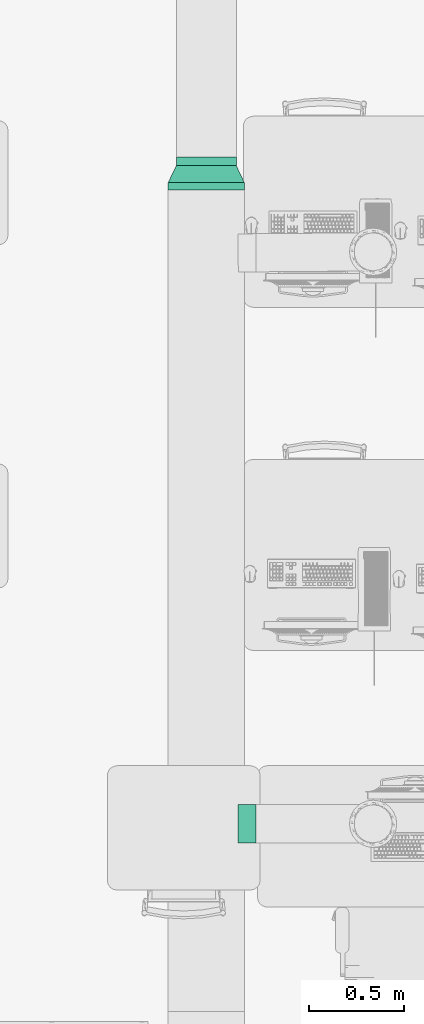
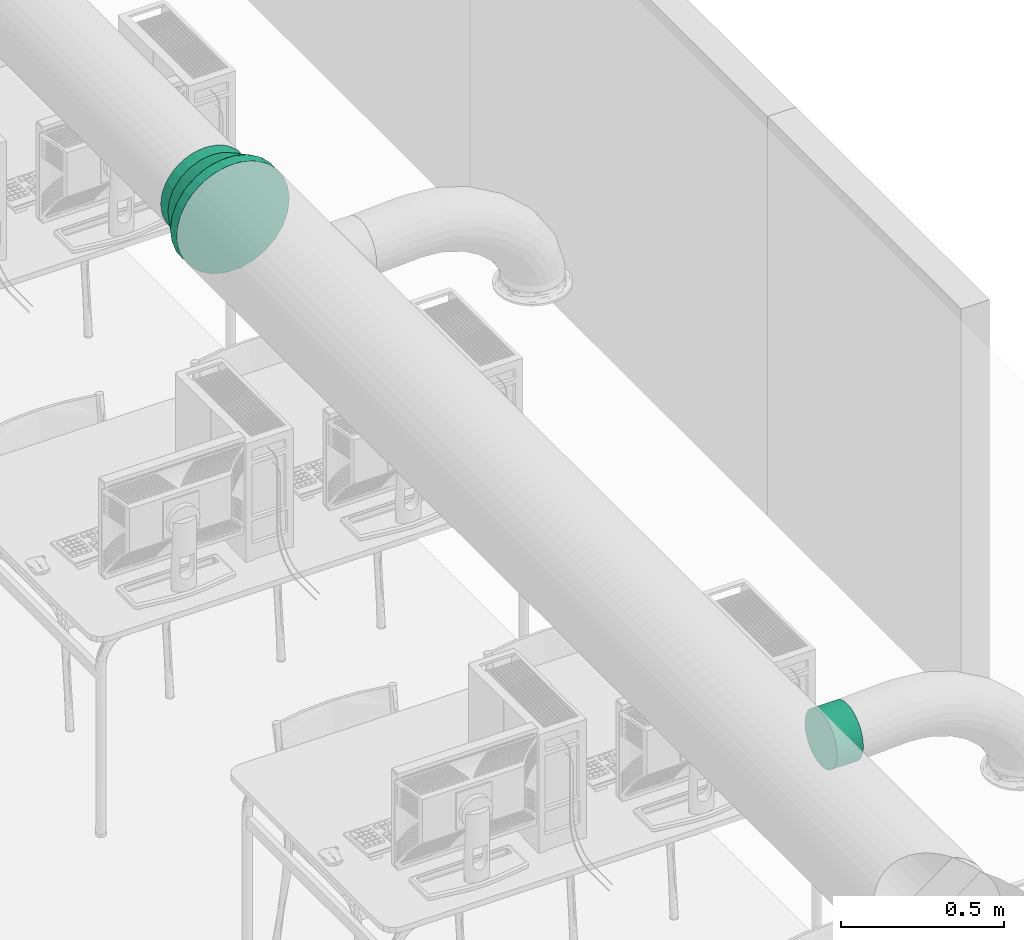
# One storey, part 13 of 31: 2 flow fittings.
"""IFC2X3 building model written with IfcOpenShell, lengths in millimetres."""

from ifc_helpers import new_model, entity, si_unit, converted_unit, derived_unit, direction, frame, frame_2d, origin, place, context, subcontext, project, spatial, circle, extrude, faceted_brep, source, transform, mapped, material, material_list, type_object, type_shapes, element, save


model = new_model("IFC2X3")

# Units and contexts
model_context = context("Model", 3, precision=0.01, world=origin(), true_north=direction((6.123031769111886e-17, 1.0)))
body_context = subcontext(model_context, "Body", "Model", "MODEL_VIEW")
ifc_project = project(units=[si_unit("LENGTHUNIT", "METRE", prefix="MILLI"), si_unit("AREAUNIT", "SQUARE_METRE"), si_unit("VOLUMEUNIT", "CUBIC_METRE"), converted_unit("PLANEANGLEUNIT", "DEGREE", entity("IfcRatioMeasure", 0.017453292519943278), si_unit("PLANEANGLEUNIT", "RADIAN"), dimensions=[0, 0, 0, 0, 0, 0, 0]), si_unit("MASSUNIT", "GRAM", prefix="KILO"), derived_unit("MASSDENSITYUNIT", [(si_unit("MASSUNIT", "GRAM", prefix="KILO"), 1), (si_unit("LENGTHUNIT", "METRE"), -3)]), derived_unit("MOMENTOFINERTIAUNIT", [(si_unit("LENGTHUNIT", "METRE"), 4)]), si_unit("TIMEUNIT", "SECOND"), si_unit("FREQUENCYUNIT", "HERTZ"), si_unit("THERMODYNAMICTEMPERATUREUNIT", "DEGREE_CELSIUS"), derived_unit("THERMALTRANSMITTANCEUNIT", [(si_unit("MASSUNIT", "GRAM", prefix="KILO"), 1), (si_unit("THERMODYNAMICTEMPERATUREUNIT", "KELVIN"), -1), (si_unit("TIMEUNIT", "SECOND"), -3)]), derived_unit("VOLUMETRICFLOWRATEUNIT", [(si_unit("LENGTHUNIT", "METRE"), 3), (si_unit("TIMEUNIT", "SECOND"), -1)]), derived_unit("MASSFLOWRATEUNIT", [(si_unit("MASSUNIT", "GRAM", prefix="KILO"), 1), (si_unit("TIMEUNIT", "SECOND"), -1)]), derived_unit("ROTATIONALFREQUENCYUNIT", [(si_unit("TIMEUNIT", "SECOND"), -1)]), si_unit("ELECTRICCURRENTUNIT", "AMPERE"), si_unit("ELECTRICVOLTAGEUNIT", "VOLT"), si_unit("POWERUNIT", "WATT"), si_unit("FORCEUNIT", "NEWTON", prefix="KILO"), si_unit("ILLUMINANCEUNIT", "LUX"), si_unit("LUMINOUSFLUXUNIT", "LUMEN"), si_unit("LUMINOUSINTENSITYUNIT", "CANDELA"), derived_unit("USERDEFINED", [(si_unit("MASSUNIT", "GRAM", prefix="KILO"), -1), (si_unit("LENGTHUNIT", "METRE"), -2), (si_unit("TIMEUNIT", "SECOND"), 3), (si_unit("LUMINOUSFLUXUNIT", "LUMEN"), 1)]), derived_unit("SOUNDPOWERUNIT", [(si_unit("MASSUNIT", "GRAM", prefix="KILO"), 1), (si_unit("LENGTHUNIT", "METRE"), 2), (si_unit("TIMEUNIT", "SECOND"), -3)]), derived_unit("SOUNDPRESSUREUNIT", [(si_unit("MASSUNIT", "GRAM", prefix="KILO"), 1), (si_unit("LENGTHUNIT", "METRE"), -1), (si_unit("TIMEUNIT", "SECOND"), -2)]), derived_unit("LINEARVELOCITYUNIT", [(si_unit("LENGTHUNIT", "METRE"), 1), (si_unit("TIMEUNIT", "SECOND"), -1)]), si_unit("PRESSUREUNIT", "PASCAL"), derived_unit("USERDEFINED", [(si_unit("LENGTHUNIT", "METRE"), -2), (si_unit("MASSUNIT", "GRAM", prefix="KILO"), 1), (si_unit("TIMEUNIT", "SECOND"), -2)]), derived_unit("LINEARFORCEUNIT", [(si_unit("MASSUNIT", "GRAM", prefix="KILO"), 1), (si_unit("LENGTHUNIT", "METRE"), 1), (si_unit("TIMEUNIT", "SECOND"), -2), (si_unit("LENGTHUNIT", "METRE"), -1)]), derived_unit("PLANARFORCEUNIT", [(si_unit("MASSUNIT", "GRAM", prefix="KILO"), 1), (si_unit("LENGTHUNIT", "METRE"), 1), (si_unit("TIMEUNIT", "SECOND"), -2), (si_unit("LENGTHUNIT", "METRE"), -2)])], contexts=[model_context])

# Site, building, storey
site_placement = place(None, origin())
site = spatial("IfcSite", under=ifc_project, at=site_placement, Name="Default", CompositionType="ELEMENT")
building_placement = place(site_placement, origin())
building = spatial("IfcBuilding", under=site, at=building_placement, CompositionType="ELEMENT")
storey_placement = place(building_placement, frame((0.0, 0.0, 3880.0)))
storey = spatial("IfcBuildingStorey", under=building, at=storey_placement, Name="Niveau 1", CompositionType="ELEMENT", Elevation=3880.0)

# Flow fittings
ifc_material = material(Name="<Unnamed>")
ifc_material_list_1 = material_list([ifc_material, ifc_material, ifc_material])
duct_fitting_type_1 = type_object("IfcDuctFittingType", Name="Circul - Std - Reduction conique - ALDES - STANDARD - (Ba) (1):Standard", PredefinedType="NOTDEFINED", material=ifc_material_list_1)
shared_shape_1 = source(origin(), body_context, "Body", "Brep", [
    faceted_brep([(89.0, 0.0, 157.49999999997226), (89.0, 40.76399960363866, 152.13331764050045), (89.0, 78.74999999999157, 136.39900109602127), (89.0, 111.36931803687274, 111.3693180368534), (89.0, 136.39900109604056, 78.74999999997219), (89.0, 152.1333176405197, 40.76399960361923), (89.0, 157.49999999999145, 0.0), (89.0, 152.13331764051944, -40.76399960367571), (89.0, 136.39900109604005, -78.75000000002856), (89.0, 111.36931803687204, -111.36931803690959), (89.0, 78.74999999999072, -136.39900109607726), (89.0, 40.763999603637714, -152.1333176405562), (89.0, 0.0, -157.50000000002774), (89.0, -40.76399960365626, -152.13331764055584), (89.0, -78.7500000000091, -136.39900109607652), (89.0, -111.36931803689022, -111.36931803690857), (89.0, -136.39900109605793, -78.75000000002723), (89.0, -152.13331764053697, -40.763999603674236), (89.0, -157.50000000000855, 0.0), (89.0, -152.1333176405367, 40.76399960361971), (89.0, -136.39900109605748, 78.7499999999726), (89.0, -111.36931803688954, 111.36931803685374), (89.0, -78.75000000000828, 136.39900109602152), (89.0, -40.76399960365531, 152.13331764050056), (134.0, 0.0, -157.50000000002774), (134.0, 40.76399960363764, -152.1333176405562), (134.0, 78.74999999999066, -136.39900109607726), (134.0, 111.36931803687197, -111.36931803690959), (134.0, 136.39900109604, -78.75000000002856), (134.0, 152.13331764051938, -40.76399960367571), (134.0, 157.49999999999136, 0.0), (134.0, 152.13331764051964, 40.76399960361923), (134.0, 136.3990010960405, 78.74999999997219), (134.0, 111.36931803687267, 111.3693180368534), (134.0, 78.7499999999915, 136.39900109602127), (134.0, 40.763999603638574, 152.13331764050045), (134.0, 0.0, 157.49999999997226), (134.0, -40.763999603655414, 152.13331764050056), (134.0, -78.75000000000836, 136.39900109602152), (134.0, -111.36931803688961, 111.36931803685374), (134.0, -136.39900109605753, 78.7499999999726), (134.0, -152.13331764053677, 40.76399960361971), (134.0, -157.5000000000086, 0.0), (134.0, -152.13331764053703, -40.763999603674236), (134.0, -136.39900109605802, -78.75000000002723), (134.0, -111.36931803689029, -111.36931803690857), (134.0, -78.75000000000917, -136.39900109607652), (134.0, -40.76399960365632, -152.13331764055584)], [[[0, 1, 2, 3, 4, 5, 6, 7, 8, 9, 10, 11, 12, 13, 14, 15, 16, 17, 18, 19, 20, 21, 22, 23]], [[24, 25, 26, 27, 28, 29, 30, 31, 32, 33, 34, 35, 36, 37, 38, 39, 40, 41, 42, 43, 44, 45, 46, 47]], [[17, 43, 42, 18]], [[16, 44, 43, 17]], [[46, 45, 15, 14]], [[16, 15, 45, 44]], [[47, 46, 14, 13]], [[24, 47, 13, 12]], [[11, 25, 24, 12]], [[10, 26, 25, 11]], [[28, 27, 9, 8]], [[10, 9, 27, 26]], [[29, 28, 8, 7]], [[30, 29, 7, 6]], [[5, 31, 30, 6]], [[4, 32, 31, 5]], [[34, 33, 3, 2]], [[4, 3, 33, 32]], [[35, 34, 2, 1]], [[36, 35, 1, 0]], [[37, 36, 0, 23]], [[40, 20, 19, 41]], [[20, 40, 39, 21]], [[41, 19, 18, 42]], [[23, 22, 38, 37]], [[38, 22, 21, 39]]]),
    faceted_brep([(0.0, 70.92097740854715, -187.00324853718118), (0.0, 113.61294934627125, -164.59677317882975), (0.0, 149.70214963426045, -132.62453164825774), (0.0, 177.09120513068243, -92.94463440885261), (0.0, 194.18836348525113, -47.8631328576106), (0.0, 200.0, 0.0), (0.0, 194.18836348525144, 47.86313285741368), (0.0, 177.09120513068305, 92.9446344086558), (0.0, 149.70214963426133, 132.6245316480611), (0.0, 113.61294934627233, 164.59677317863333), (0.0, 70.9209774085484, 187.00324853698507), (0.0, 24.10733605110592, 198.54177481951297), (0.0, -24.107336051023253, 198.54177481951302), (0.0, -70.92097740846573, 187.00324853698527), (0.0, -113.61294934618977, 164.59677317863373), (0.0, -149.70214963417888, 132.62453164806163), (0.0, -177.0912051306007, 92.94463440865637), (0.0, -194.18836348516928, 47.863132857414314), (0.0, -200.0, 0.0), (0.0, -194.18836348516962, -47.86313285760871), (0.0, -177.09120513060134, -92.94463440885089), (0.0, -149.7021496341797, -132.6245316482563), (0.0, -113.61294934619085, -164.5967731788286), (0.0, -70.92097740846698, -187.00324853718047), (0.0, -24.10733605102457, -198.5417748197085), (0.0, 24.107336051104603, -198.54177481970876), (-39.0, 24.10733605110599, 198.54177481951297), (-39.0, 70.92097740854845, 187.00324853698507), (-39.0, 113.6129493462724, 164.59677317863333), (-39.0, 149.70214963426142, 132.6245316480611), (-39.0, 177.0912051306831, 92.9446344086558), (-39.0, 194.18836348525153, 47.86313285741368), (-39.0, 200.0, 0.0), (-39.0, 194.18836348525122, -47.8631328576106), (-39.0, 177.0912051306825, -92.94463440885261), (-39.0, 149.70214963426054, -132.62453164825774), (-39.0, 113.61294934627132, -164.59677317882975), (-39.0, 70.9209774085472, -187.00324853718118), (-39.0, 24.10733605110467, -198.54177481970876), (-39.0, -24.107336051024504, -198.5417748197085), (-39.0, -70.92097740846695, -187.00324853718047), (-39.0, -113.61294934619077, -164.5967731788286), (-39.0, -149.70214963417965, -132.6245316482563), (-39.0, -177.09120513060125, -92.94463440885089), (-39.0, -194.18836348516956, -47.86313285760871), (-39.0, -200.0, 0.0), (-39.0, -194.18836348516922, 47.863132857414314), (-39.0, -177.09120513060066, 92.94463440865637), (-39.0, -149.70214963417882, 132.62453164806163), (-39.0, -113.6129493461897, 164.59677317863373), (-39.0, -70.92097740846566, 187.00324853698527), (-39.0, -24.107336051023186, 198.54177481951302)], [[[0, 1, 2, 3, 4, 5, 6, 7, 8, 9, 10, 11, 12, 13, 14, 15, 16, 17, 18, 19, 20, 21, 22, 23, 24, 25]], [[26, 27, 28, 29, 30, 31, 32, 33, 34, 35, 36, 37, 38, 39, 40, 41, 42, 43, 44, 45, 46, 47, 48, 49, 50, 51]], [[44, 19, 18, 45]], [[43, 20, 19, 44]], [[22, 21, 42, 41]], [[41, 40, 23, 22]], [[43, 42, 21, 20]], [[39, 24, 23, 40]], [[39, 38, 25, 24]], [[37, 0, 25, 38]], [[36, 1, 0, 37]], [[4, 3, 34, 33]], [[33, 32, 5, 4]], [[36, 35, 2, 1]], [[35, 34, 3, 2]], [[31, 6, 5, 32]], [[30, 7, 6, 31]], [[9, 8, 29, 28]], [[28, 27, 10, 9]], [[30, 29, 8, 7]], [[26, 11, 10, 27]], [[26, 51, 12, 11]], [[14, 13, 50, 49]], [[51, 50, 13, 12]], [[47, 46, 17, 16]], [[15, 48, 47, 16]], [[14, 49, 48, 15]], [[17, 46, 45, 18]]]),
    faceted_brep([(89.0, -40.76399960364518, -152.13331764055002), (89.0, 0.0, -157.500000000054), (89.0, 40.76399960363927, -152.13331764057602), (89.0, 78.74999999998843, -136.39900109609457), (89.0, 111.36931803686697, -111.36931803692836), (89.0, 136.3990010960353, -78.75000000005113), (89.0, 152.13331764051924, -40.76399960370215), (89.0, 157.4999999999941, 0.0), (89.0, 152.1333176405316, 40.76399960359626), (89.0, 136.3990010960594, 78.74999999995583), (89.0, 111.3693180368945, 111.36931803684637), (89.0, 78.75000000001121, 136.39900109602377), (89.0, 40.763999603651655, 152.1333176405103), (89.0, 0.0, 157.49999999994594), (89.0, -40.76399960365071, 152.1333176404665), (89.0, -78.74999999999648, 136.39900109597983), (89.0, -111.36931803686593, 111.36931803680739), (89.0, -136.39900109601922, 78.74999999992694), (89.0, -152.13331764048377, 40.7639996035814), (89.0, -157.5000000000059, 0.0), (89.0, -152.13331764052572, -40.76399960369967), (89.0, -136.3990010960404, -78.75000000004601), (89.0, -111.3693180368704, -111.36931803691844), (89.0, -78.74999999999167, -136.39900109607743), (0.0, -200.0, 0.0), (0.0, -194.98558243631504, 44.5041867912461), (0.0, -180.19377358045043, 86.77674782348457), (0.0, -156.3662964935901, 124.69796037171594), (0.0, -124.69796037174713, 156.36629649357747), (0.0, -86.7767478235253, 180.19377358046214), (0.0, -44.50418679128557, 194.98558243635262), (0.0, 0.0, 200.0), (0.0, 44.50418679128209, 194.98558243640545), (0.0, 86.77674782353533, 180.193773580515), (0.0, 124.69796037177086, 156.36629649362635), (0.0, 156.36629649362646, 124.69796037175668), (0.0, 180.19377358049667, 86.7767478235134), (0.0, 194.98558243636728, 44.50418679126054), (0.0, 200.0, 0.0), (0.0, 194.98558243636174, -44.50418679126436), (0.0, 180.19377358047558, -86.77674782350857), (0.0, 156.36629649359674, -124.69796037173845), (0.0, 124.69796037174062, -156.36629649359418), (0.0, 86.77674782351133, -180.19377358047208), (0.0, 44.50418679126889, -194.98558243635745), (0.0, 0.0, -200.0), (0.0, -44.50418679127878, -194.98558243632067), (0.0, -86.77674782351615, -180.19377358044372), (0.0, -124.69796037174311, -156.36629649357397), (0.0, -156.36629649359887, -124.6979603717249), (0.0, -180.1937735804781, -86.77674782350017), (0.0, -194.98558243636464, -44.504186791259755)], [[[0, 1, 2, 3, 4, 5, 6, 7, 8, 9, 10, 11, 12, 13, 14, 15, 16, 17, 18, 19, 20, 21, 22, 23]], [[24, 25, 26, 27, 28, 29, 30, 31, 32, 33, 34, 35, 36, 37, 38, 39, 40, 41, 42, 43, 44, 45, 46, 47, 48, 49, 50, 51]], [[12, 11, 33]], [[13, 12, 32]], [[31, 13, 32]], [[32, 12, 33]], [[11, 34, 33]], [[11, 10, 34]], [[35, 10, 9]], [[8, 7, 37]], [[36, 9, 8]], [[36, 35, 9]], [[37, 36, 8]], [[7, 38, 37]], [[10, 35, 34]], [[18, 17, 26]], [[19, 18, 25]], [[24, 19, 25]], [[25, 18, 26]], [[17, 27, 26]], [[17, 16, 27]], [[28, 16, 15]], [[14, 13, 30]], [[29, 15, 14]], [[29, 28, 15]], [[30, 29, 14]], [[13, 31, 30]], [[16, 28, 27]], [[0, 23, 47]], [[1, 0, 46]], [[45, 1, 46]], [[46, 0, 47]], [[23, 48, 47]], [[23, 22, 48]], [[49, 22, 21]], [[20, 19, 51]], [[50, 21, 20]], [[50, 49, 21]], [[51, 50, 20]], [[19, 24, 51]], [[22, 49, 48]], [[6, 5, 40]], [[7, 6, 39]], [[38, 7, 39]], [[39, 6, 40]], [[5, 41, 40]], [[5, 4, 41]], [[42, 4, 3]], [[2, 1, 44]], [[43, 3, 2]], [[43, 42, 3]], [[44, 43, 2]], [[1, 45, 44]], [[4, 42, 41]]]),
])
type_shapes(duct_fitting_type_1, [shared_shape_1])
flow_fitting_1_placement = place(storey_placement, frame((-2195.0, -9567.552532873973, 3150.0), z_axis=(0.0, 0.0, 1.0), x_axis=(0.0, 1.0, 0.0)))
element("IfcFlowFitting", 1, at=flow_fitting_1_placement, inside=storey, type_object=duct_fitting_type_1, material=ifc_material, Name="Circul - Std - Reduction conique - ALDES - STANDARD - (Ba) (1):Standard", ObjectType="Circul - Std - Reduction conique - ALDES - STANDARD - (Ba) (1):Standard", context=body_context, shape_type="MappedRepresentation", body=[
    mapped(shared_shape_1, transform((0.0, 0.0, 0.0), scale=1.0)),
])
ifc_material_list_2 = material_list([ifc_material, ifc_material, ifc_material])
duct_fitting_type_2 = type_object("IfcDuctFittingType", Name="Piquage Aldes:Standard", PredefinedType="NOTDEFINED", material=ifc_material_list_2)
shared_shape_2 = source(origin(), body_context, "Body", "SweptSolid", [
    extrude(circle(Radius=99.99999999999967, at=frame_2d((-2.057646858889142e-13, -7.948734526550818e-14), x_axis=(1.0, 0.0))), frame((10.0, 0.0, 0.0), z_axis=(1.0, 0.0, 0.0), x_axis=(0.0, -1.0, 0.0)), (0.0, 0.0, 1.0), 50.00000000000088),
    extrude(circle(Radius=99.99999999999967, at=frame_2d((-2.057646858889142e-13, -7.948734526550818e-14), x_axis=(1.0, 0.0))), frame((0.0, 0.0, 0.0), z_axis=(1.0, 0.0, 0.0), x_axis=(0.0, -1.0, 0.0)), (0.0, 0.0, 1.0), 10.000000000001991),
    extrude(circle(Radius=99.99999999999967, at=frame_2d((-2.0644288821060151e-13, -2.4268639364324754e-13), x_axis=(1.0, 0.0))), frame((-32.89091924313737, 0.0, 0.0), z_axis=(1.0, 0.0, 0.0), x_axis=(0.0, -1.0, 0.0)), (0.0, 0.0, 1.0), 32.89091924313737),
])
type_shapes(duct_fitting_type_2, [shared_shape_2])
flow_fitting_2_placement = place(storey_placement, frame((-1995.0, -12930.0, 3150.0), z_axis=(0.0, 0.0, -1.0), x_axis=(1.0, 0.0, 0.0)))
element("IfcFlowFitting", 2, at=flow_fitting_2_placement, inside=storey, type_object=duct_fitting_type_2, material=ifc_material, Name="Piquage Aldes:Standard", ObjectType="Piquage Aldes:Standard", context=body_context, shape_type="MappedRepresentation", body=[
    mapped(shared_shape_2, transform((0.0, 0.0, 0.0), scale=1.0)),
])

save(model, "model.ifc")
